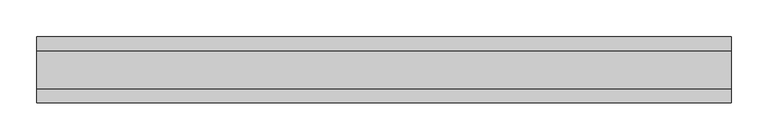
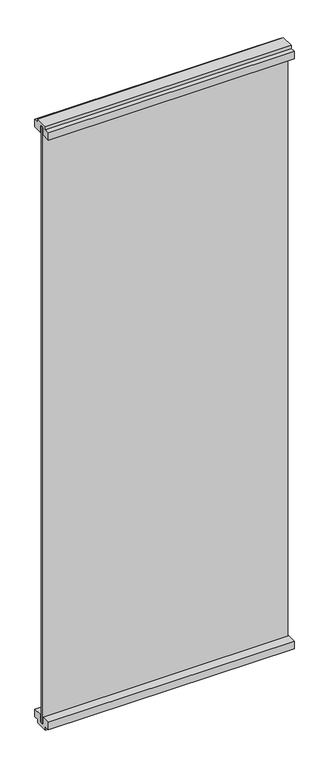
"""IFC4 building model written with IfcOpenShell, lengths in millimetres: furniture geometry, Allsteel - Aspect - Panel - 1-Way End (02-18-25) : Allsteel - Aspect - Panel - 1-Way End (02-18-25)."""

from ifc_helpers import new_model, si_unit, frame, origin, place, context, project, spatial, polyline, outline, extrude, source, transform, mapped, element, save


def furniture_07f6d6e3(model_context):
    return source(origin(), model_context, "Body", "SweptSolid", [
        extrude(outline(polyline([(939.00625, -3.175), (0.0, -3.175), (0.0, 3.175), (939.00625, 3.175), (939.00625, -3.175)])), frame((0.0, 0.0, 12.7), z_axis=(0.0, 0.0, 1.0), x_axis=(1.0, 0.0, 0.0)), (0.0, 0.0, 1.0), 2413.0),
        extrude(outline(polyline([(-25.4, 2438.4), (25.4, 2438.4), (25.4, 2425.7), (44.45, 2425.7), (44.45, 2395.5375), (9.525, 2395.5375), (9.525, 2425.7), (-9.525, 2425.7), (-9.525, 2395.5375), (-44.45, 2395.5375), (-44.45, 2425.7), (-25.4, 2425.7), (-25.4, 2438.4)])), frame((0.0, 0.0, 0.0), z_axis=(1.0, 0.0, 0.0), x_axis=(0.0, 1.0, 0.0)), (0.0, 0.0, 1.0), 939.00625),
        extrude(outline(polyline([(25.4, 0.0), (-25.4, 0.0), (-25.4, 12.7), (-44.45, 12.7), (-44.45, 42.8625), (-9.525, 42.8625), (-9.525, 12.7), (9.525, 12.7), (9.525, 42.8625), (44.45, 42.8625), (44.45, 12.7), (25.4, 12.7), (25.4, 0.0)])), frame((0.0, 0.0, 0.0), z_axis=(1.0, 0.0, 0.0), x_axis=(0.0, 1.0, 0.0)), (0.0, 0.0, 1.0), 939.00625),
    ])


if __name__ == "__main__":
    model = new_model("IFC4")
    model_context = context("Model", 3, world=origin())
    ifc_project = project(units=[si_unit("LENGTHUNIT", "METRE", prefix="MILLI")], contexts=[model_context])
    site = spatial("IfcSite", under=ifc_project)
    building = spatial("IfcBuilding", under=site)
    placement = place(None, origin())
    furniture_shape = furniture_07f6d6e3(model_context)
    element("IfcFurniture", 1, ObjectType="Allsteel - Aspect - Panel - 1-Way End (02-18-25) : Allsteel - Aspect - Panel - 1-Way End (02-18-25)", at=placement, inside=building, context=model_context, shape_type="MappedRepresentation", body=[
        mapped(furniture_shape, transform((0.0, 0.0, 0.0), x_axis=(1.0, 0.0, 0.0), y_axis=(0.0, 1.0, 0.0), z_axis=(0.0, 0.0, 1.0))),
    ])
    save(model, "model.ifc")
